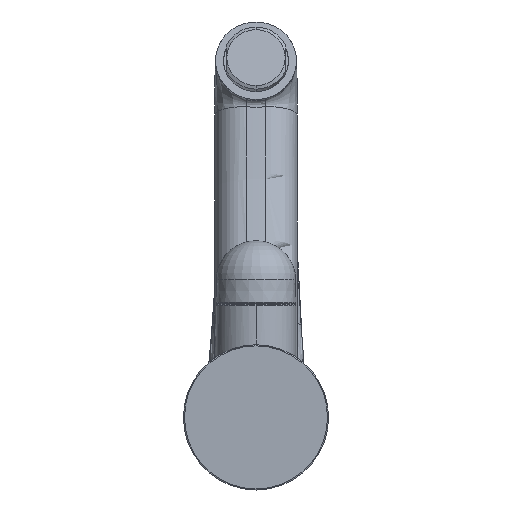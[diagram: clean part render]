
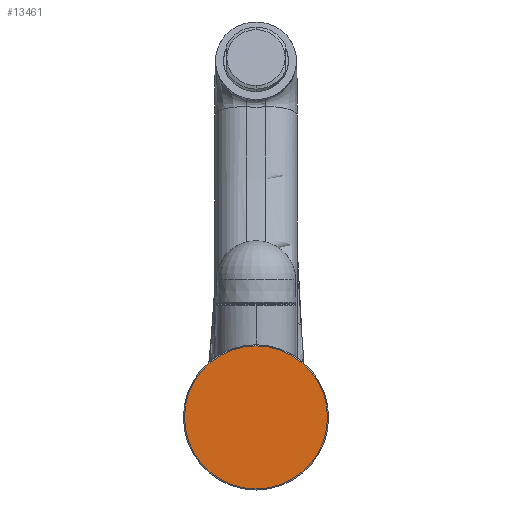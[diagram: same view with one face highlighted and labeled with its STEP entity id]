
A CAD part, front view. The second image highlights one B-rep face of the part: STEP entity #13461.
In plain terms, the highlighted planar face has unit normal (0, -1, 0).
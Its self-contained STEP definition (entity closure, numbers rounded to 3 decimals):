
#306 = DIRECTION ( 'NONE',  ( -1., 0., 0. ) ) ;
#490 = CIRCLE ( 'NONE', #651, 26.461 ) ;
#651 = AXIS2_PLACEMENT_3D ( 'NONE', #10295, #10357, #306 ) ;
#1810 = CIRCLE ( 'NONE', #9384, 26.461 ) ;
#2510 = VERTEX_POINT ( 'NONE', #12591 ) ;
#2970 = PLANE ( 'NONE',  #15302 ) ;
#3030 = CARTESIAN_POINT ( 'NONE',  ( 195.798, 362.102, 429.716 ) ) ;
#4664 = DIRECTION ( 'NONE',  ( 0., 0., 1. ) ) ;
#4963 = DIRECTION ( 'NONE',  ( 0., -1., 0. ) ) ;
#6812 = FACE_OUTER_BOUND ( 'NONE', #7518, .T. ) ;
#7013 = ORIENTED_EDGE ( 'NONE', *, *, #14621, .T. ) ;
#7518 = EDGE_LOOP ( 'NONE', ( #7013, #18168 ) ) ;
#9290 = DIRECTION ( 'NONE',  ( -1., 0., 0. ) ) ;
#9384 = AXIS2_PLACEMENT_3D ( 'NONE', #13707, #4963, #9290 ) ;
#10295 = CARTESIAN_POINT ( 'NONE',  ( 219.798, 362.102, 429.716 ) ) ;
#10357 = DIRECTION ( 'NONE',  ( 0., -1., 0. ) ) ;
#11746 = DIRECTION ( 'NONE',  ( 0., -1., 0. ) ) ;
#12591 = CARTESIAN_POINT ( 'NONE',  ( 193.337, 362.102, 429.716 ) ) ;
#13461 = ADVANCED_FACE ( 'NONE', ( #6812 ), #2970, .T. ) ;
#13707 = CARTESIAN_POINT ( 'NONE',  ( 219.798, 362.102, 429.716 ) ) ;
#13908 = CARTESIAN_POINT ( 'NONE',  ( 246.26, 362.102, 429.716 ) ) ;
#14261 = EDGE_CURVE ( 'NONE', #17148, #2510, #490, .T. ) ;
#14621 = EDGE_CURVE ( 'NONE', #2510, #17148, #1810, .T. ) ;
#15302 = AXIS2_PLACEMENT_3D ( 'NONE', #3030, #11746, #4664 ) ;
#17148 = VERTEX_POINT ( 'NONE', #13908 ) ;
#18168 = ORIENTED_EDGE ( 'NONE', *, *, #14261, .T. ) ;
